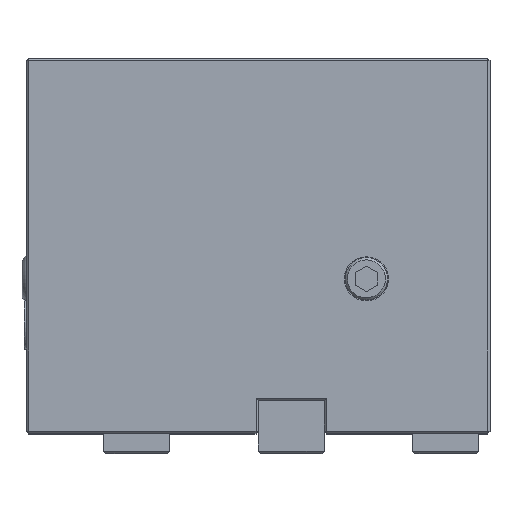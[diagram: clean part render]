
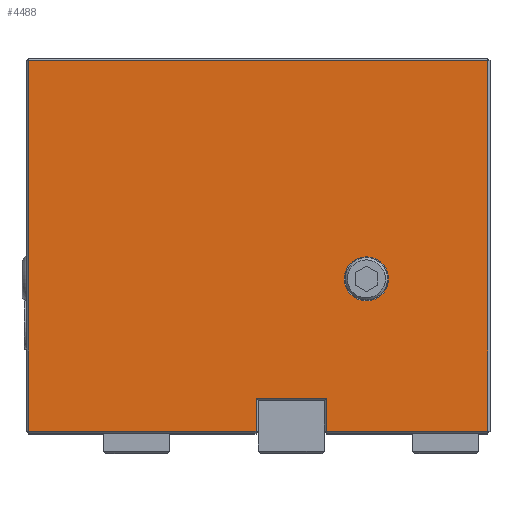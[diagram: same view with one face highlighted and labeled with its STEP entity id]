
A CAD part, top view. The second image highlights one B-rep face of the part: STEP entity #4488.
In plain terms, the highlighted planar face has unit normal (0, 0, 1).
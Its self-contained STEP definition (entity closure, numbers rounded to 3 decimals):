
#52=FACE_BOUND('',#752,.T.);
#209=PLANE('',#4848);
#459=FACE_OUTER_BOUND('',#751,.T.);
#751=EDGE_LOOP('',(#3664,#3665,#3666,#3667,#3668,#3669,#3670,#3671));
#752=EDGE_LOOP('',(#3672));
#933=CIRCLE('',#4706,5.);
#1240=LINE('',#6958,#1704);
#1247=LINE('',#6971,#1711);
#1256=LINE('',#6990,#1720);
#1277=LINE('',#7033,#1741);
#1280=LINE('',#7038,#1744);
#1282=LINE('',#7041,#1746);
#1285=LINE('',#7045,#1749);
#1289=LINE('',#7051,#1753);
#1704=VECTOR('',#5566,10.);
#1711=VECTOR('',#5579,10.);
#1720=VECTOR('',#5594,10.);
#1741=VECTOR('',#5631,10.);
#1744=VECTOR('',#5636,10.);
#1746=VECTOR('',#5640,10.);
#1749=VECTOR('',#5645,10.);
#1753=VECTOR('',#5653,10.);
#2027=VERTEX_POINT('',#6622);
#2128=VERTEX_POINT('',#6929);
#2135=VERTEX_POINT('',#6951);
#2140=VERTEX_POINT('',#6967);
#2145=VERTEX_POINT('',#6983);
#2147=VERTEX_POINT('',#6989);
#2149=VERTEX_POINT('',#6994);
#2157=VERTEX_POINT('',#7017);
#2161=VERTEX_POINT('',#7032);
#2448=EDGE_CURVE('',#2027,#2027,#933,.T.);
#2610=EDGE_CURVE('',#2135,#2128,#1240,.T.);
#2617=EDGE_CURVE('',#2128,#2140,#1247,.T.);
#2626=EDGE_CURVE('',#2140,#2147,#1256,.T.);
#2647=EDGE_CURVE('',#2161,#2157,#1277,.T.);
#2650=EDGE_CURVE('',#2157,#2149,#1280,.T.);
#2652=EDGE_CURVE('',#2147,#2161,#1282,.T.);
#2655=EDGE_CURVE('',#2149,#2145,#1285,.T.);
#2659=EDGE_CURVE('',#2145,#2135,#1289,.T.);
#3664=ORIENTED_EDGE('',*,*,#2647,.F.);
#3665=ORIENTED_EDGE('',*,*,#2652,.F.);
#3666=ORIENTED_EDGE('',*,*,#2626,.F.);
#3667=ORIENTED_EDGE('',*,*,#2617,.F.);
#3668=ORIENTED_EDGE('',*,*,#2610,.F.);
#3669=ORIENTED_EDGE('',*,*,#2659,.F.);
#3670=ORIENTED_EDGE('',*,*,#2655,.F.);
#3671=ORIENTED_EDGE('',*,*,#2650,.F.);
#3672=ORIENTED_EDGE('',*,*,#2448,.T.);
#4488=ADVANCED_FACE('',(#459,#52),#209,.T.);
#4706=AXIS2_PLACEMENT_3D('',#6623,#5264,#5265);
#4848=AXIS2_PLACEMENT_3D('',#7210,#5807,#5808);
#5264=DIRECTION('center_axis',(0.,0.,-1.));
#5265=DIRECTION('ref_axis',(1.,0.,0.));
#5566=DIRECTION('',(0.,-1.,0.));
#5579=DIRECTION('',(-1.,0.,0.));
#5594=DIRECTION('',(0.,1.,0.));
#5631=DIRECTION('',(0.,-1.,0.));
#5636=DIRECTION('',(-1.,0.,0.));
#5640=DIRECTION('',(-1.,0.,0.));
#5645=DIRECTION('',(0.,1.,0.));
#5653=DIRECTION('',(1.,0.,0.));
#5807=DIRECTION('center_axis',(0.,0.,1.));
#5808=DIRECTION('ref_axis',(1.,0.,0.));
#6622=CARTESIAN_POINT('',(72.,35.,0.));
#6623=CARTESIAN_POINT('Origin',(77.,35.,0.));
#6929=CARTESIAN_POINT('',(104.5,0.5,0.));
#6951=CARTESIAN_POINT('',(104.5,84.5,0.));
#6958=CARTESIAN_POINT('',(104.5,0.,0.));
#6967=CARTESIAN_POINT('',(68.,0.5,0.));
#6971=CARTESIAN_POINT('',(26.25,0.5,0.));
#6983=CARTESIAN_POINT('',(0.5,84.5,0.));
#6989=CARTESIAN_POINT('',(68.,8.,0.));
#6990=CARTESIAN_POINT('',(68.,0.,0.));
#6994=CARTESIAN_POINT('',(0.5,0.5,0.));
#7017=CARTESIAN_POINT('',(52.,0.5,0.));
#7032=CARTESIAN_POINT('',(52.,8.,0.));
#7033=CARTESIAN_POINT('',(52.,0.,0.));
#7038=CARTESIAN_POINT('',(26.25,0.5,0.));
#7041=CARTESIAN_POINT('',(26.25,8.,0.));
#7045=CARTESIAN_POINT('',(0.5,0.,0.));
#7051=CARTESIAN_POINT('',(26.25,84.5,0.));
#7210=CARTESIAN_POINT('Origin',(0.,0.,0.));
